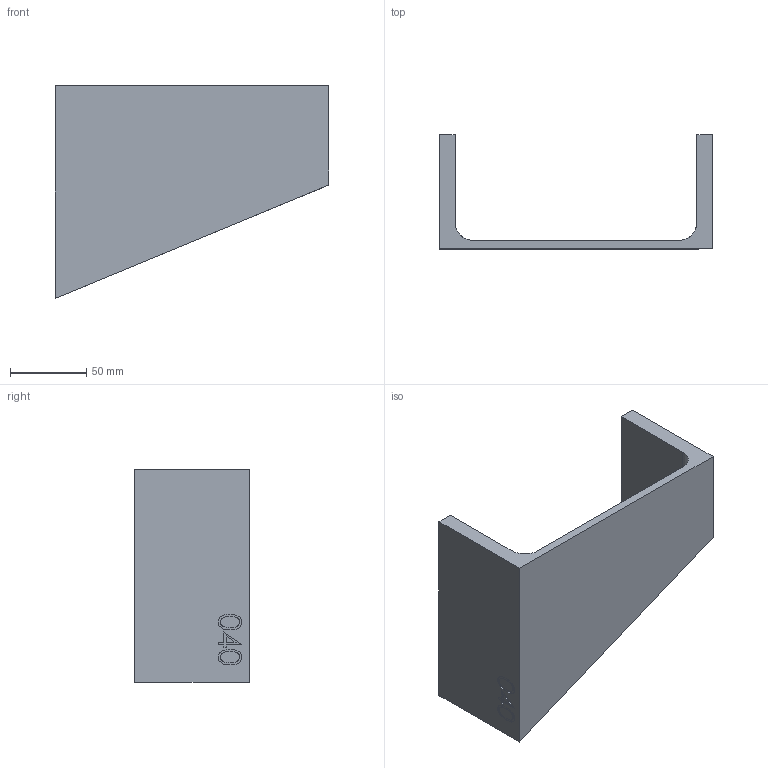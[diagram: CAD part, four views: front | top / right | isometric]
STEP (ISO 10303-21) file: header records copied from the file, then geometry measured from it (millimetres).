
FILE_DESCRIPTION (( 'STEP AP214' ), '1' );
FILE_NAME ('CCJ029-REP.040 - MONTANT ESCALIER INTERMEDIAIRE DOUBLE 3 SYM.STEP', '2024-01-31T09:06:21', ( '' ), ( '' ), 'SwSTEP 2.0', 'SolidWorks 2021', '' );
FILE_SCHEMA (( 'AUTOMOTIVE_DESIGN' ));
Length unit declared in the file: millimetre
Products named in the file (1): CCJ029-REP.040 - MONTANT ESCALIER INTERMEDIAIRE DOUBLE 3 SYM
Bounding box: 180 x 75 x 140 mm (x, y, z)
Volume: 257887.2 mm3; surface area: 70944.6 mm2
Topology: 1 solids, 1 shells, 49 faces, 123 edges, 82 vertices
Faces by surface type: plane 29, bspline 18, cylinder 2
Entity records: 2917 total; most frequent: CARTESIAN_POINT 1831, ORIENTED_EDGE 246, DIRECTION 151, EDGE_CURVE 123, VECTOR 83, LINE 83, VERTEX_POINT 82, EDGE_LOOP 55
